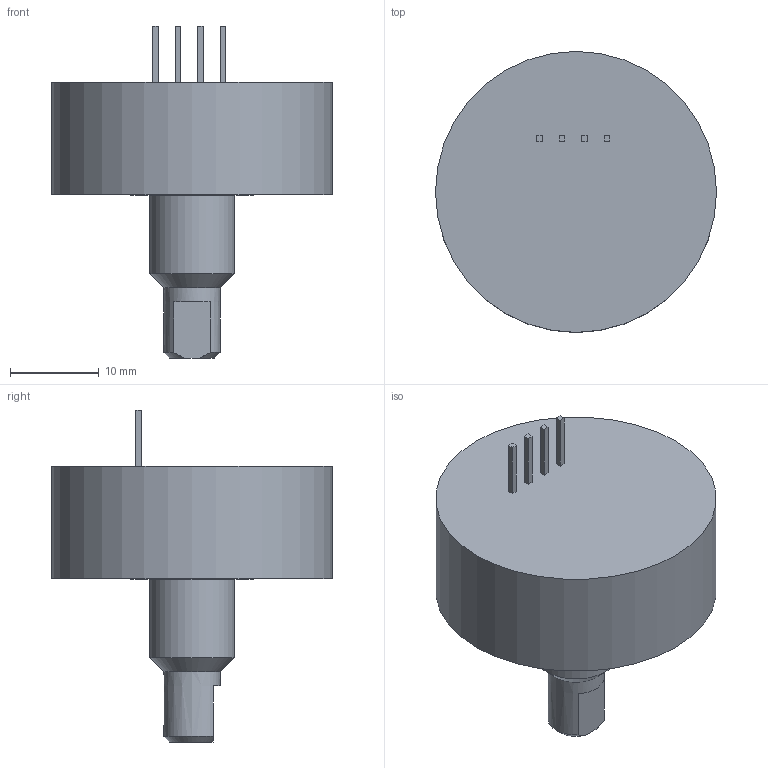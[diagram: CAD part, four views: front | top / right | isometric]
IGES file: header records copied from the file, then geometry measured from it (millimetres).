
Global section: file name: No Iges File Name specified; native system: AutoDesk Inventor R5.0; preprocessor: AutoDesk Inventor Iges Exporter R5.0; author: No Author specified; organization: No Organization specified; date: 20040209.214937; units: inch
Bounding box: 31.75 x 31.75 x 37.52 mm (x, y, z)
Surface area: 3350.2 mm2 (no closed solid volume)
Topology: 0 solids, 0 shells, 32 faces, 137 edges, 132 vertices
Faces by surface type: plane 26, revolution 6
